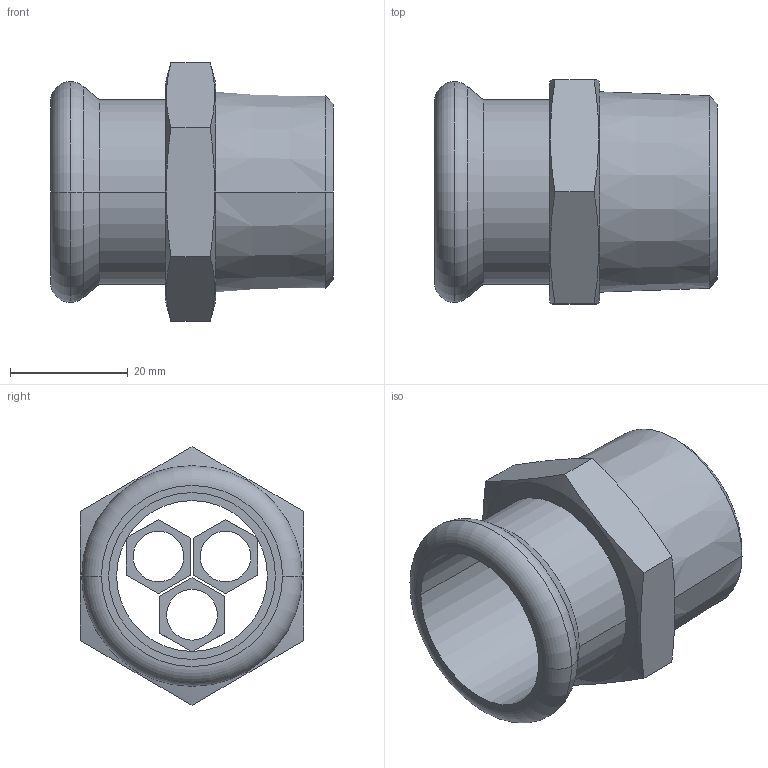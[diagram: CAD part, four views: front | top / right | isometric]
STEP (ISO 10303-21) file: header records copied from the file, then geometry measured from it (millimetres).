
FILE_DESCRIPTION(('OneSpaceDesigner STEP Export'),'2;1');
FILE_NAME('R2705 28xR1.stp','2010-06-09T10:51:36',(''),(''),'OneSpace Designer STEP processor for AP214 (Solid Model)','OneSpace Modeling 15.00A 14-Mar-2007 (C) CoCreate Software GmbH','');
FILE_SCHEMA(('AUTOMOTIVE_DESIGN { 1 0 10303 214 1 1 1 1 }'));
Length unit declared in the file: millimetre
Products named in the file (2): R2705_28xR1
Assembly tree (1 placements, depth 2):
  R2705_28xR1
    R2705_28xR1
Bounding box: 48 x 38 x 43.88 mm (x, y, z)
Volume: 16837.8 mm3; surface area: 11572.2 mm2
Topology: 1 solids, 1 shells, 70 faces, 176 edges, 115 vertices
Faces by surface type: plane 39, cylinder 17, cone 10, torus 4
Entity records: 2764 total; most frequent: CARTESIAN_POINT 1153, ORIENTED_EDGE 352, DIRECTION 277, EDGE_CURVE 176, VERTEX_POINT 115, VECTOR 99, LINE 99, AXIS2_PLACEMENT_3D 89
